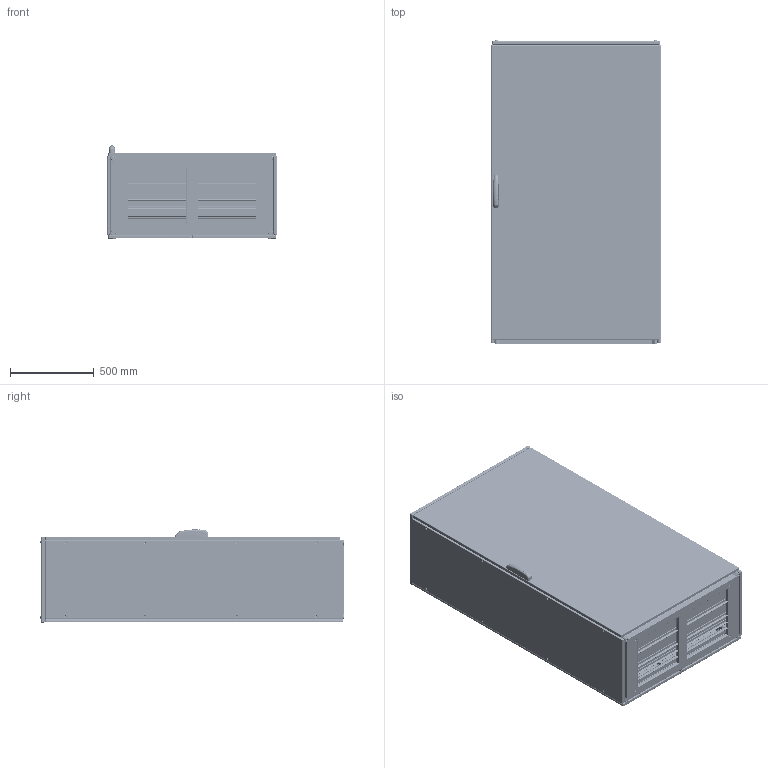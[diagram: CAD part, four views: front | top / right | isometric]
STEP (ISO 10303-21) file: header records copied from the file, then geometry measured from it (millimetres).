
FILE_DESCRIPTION (( 'STEP AP203' ), '1' );
FILE_NAME ('ENUX101805PR.STEP', '2025-05-29T07:13:25', ( '' ), ( '' ), 'SwSTEP 2.0', 'SolidWorks 2022', '' );
FILE_SCHEMA (( 'CONFIG_CONTROL_DESIGN' ));
Products named in the file (13): AR_ENUX_Retro_IB_1000x1800; AR_ENUX_Tegolino_1000x0050; AR_ENUX_nuova_maniglia_mesan; AR_ENUX_Tegolino_1000x0100; AR_ENUX_Fianco_0500x1800_DX; ENUX101805PR; AR_ENUX_Fianco_0500x1800_SX; AR_ENUX_Tetto_1000x0500; AR_ENUX_Porta_singola_2.0_1000x1800_ANT; AR_ENUX_Struttura_1000x1800x0500; AR_ENUX_montaggio_porta_singlola_2.0_1000x1800_ANT_DX; AR_ENUX_Retro_CB_1000x1800; AR_ENUX_Vite_tetto
Assembly tree (21 placements, depth 3):
  ENUX101805PR
    AR_ENUX_Struttura_1000x1800x0500
    AR_ENUX_montaggio_porta_singlola_2.0_1000x1800_ANT_DX
      AR_ENUX_Porta_singola_2.0_1000x1800_ANT
      AR_ENUX_nuova_maniglia_mesan
    AR_ENUX_Fianco_0500x1800_SX
    AR_ENUX_Fianco_0500x1800_DX
    AR_ENUX_Tetto_1000x0500
    AR_ENUX_Vite_tetto  x4
    AR_ENUX_Tegolino_1000x0050  x4
    AR_ENUX_Tegolino_1000x0100  x4
    AR_ENUX_Retro_CB_1000x1800
    AR_ENUX_Retro_IB_1000x1800
Bounding box: 1012 x 1815.1 x 557 mm (x, y, z)
Volume: 13751166.9 mm3; surface area: 19910009.7 mm2
Topology: 20 solids, 21 shells, 9393 faces, 26337 edges, 16873 vertices
Faces by surface type: plane 5088, cylinder 3322, bspline 365, torus 297, cone 236, sphere 85
Entity records: 334805 total; most frequent: CARTESIAN_POINT 91876, ORIENTED_EDGE 50322, DIRECTION 48217, EDGE_CURVE 25161, VECTOR 17159, LINE 17159, VERTEX_POINT 16315, AXIS2_PLACEMENT_3D 15529
